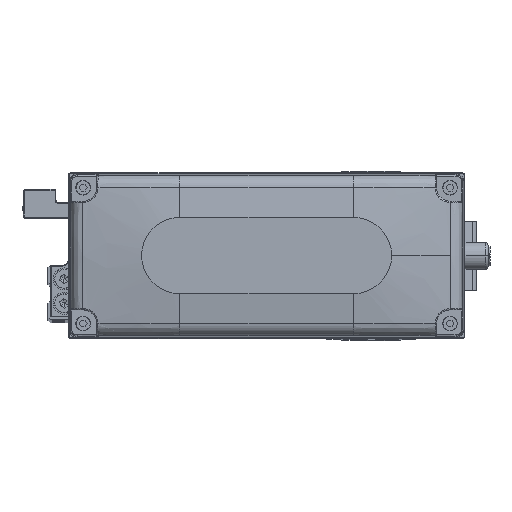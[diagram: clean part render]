
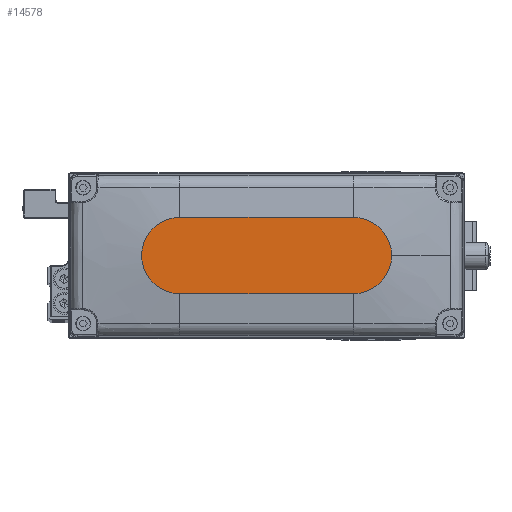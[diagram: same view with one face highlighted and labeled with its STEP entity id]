
A CAD part, top view. The second image highlights one B-rep face of the part: STEP entity #14578.
In plain terms, the highlighted planar face has unit normal (0, 0, 1).
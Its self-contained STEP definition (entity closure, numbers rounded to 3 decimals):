
#229 = AXIS2_PLACEMENT_3D ( 'NONE', #42805, #10837, #25076 ) ;
#555 = EDGE_CURVE ( 'NONE', #37401, #34958, #22100, .T. ) ;
#601 = EDGE_CURVE ( 'NONE', #31095, #5945, #36462, .T. ) ;
#1197 = VERTEX_POINT ( 'NONE', #17654 ) ;
#1969 = AXIS2_PLACEMENT_3D ( 'NONE', #37122, #5146, #19381 ) ;
#2092 = CARTESIAN_POINT ( 'NONE',  ( 32., 0., 35. ) ) ;
#3259 = DIRECTION ( 'NONE',  ( 0., 0., 1. ) ) ;
#5146 = DIRECTION ( 'NONE',  ( 0., 0., 1. ) ) ;
#5945 = VERTEX_POINT ( 'NONE', #33061 ) ;
#6874 = ORIENTED_EDGE ( 'NONE', *, *, #31077, .T. ) ;
#8332 = ORIENTED_EDGE ( 'NONE', *, *, #41170, .T. ) ;
#10837 = DIRECTION ( 'NONE',  ( 0., 0., 1. ) ) ;
#12405 = CARTESIAN_POINT ( 'NONE',  ( -32., 14., 35. ) ) ;
#12777 = EDGE_LOOP ( 'NONE', ( #8332, #42431, #6874, #13248, #17456 ) ) ;
#13248 = ORIENTED_EDGE ( 'NONE', *, *, #601, .T. ) ;
#14192 = LINE ( 'NONE', #28452, #37978 ) ;
#14327 = FACE_OUTER_BOUND ( 'NONE', #12777, .T. ) ;
#14578 = ADVANCED_FACE ( 'NONE', ( #14327 ), #28585, .T. ) ;
#16338 = DIRECTION ( 'NONE',  ( 0., 0., 1. ) ) ;
#16345 = AXIS2_PLACEMENT_3D ( 'NONE', #2092, #16338, #30614 ) ;
#17296 = AXIS2_PLACEMENT_3D ( 'NONE', #35243, #3259, #17488 ) ;
#17456 = ORIENTED_EDGE ( 'NONE', *, *, #44791, .T. ) ;
#17488 = DIRECTION ( 'NONE',  ( 1., 0., 0. ) ) ;
#17654 = CARTESIAN_POINT ( 'NONE',  ( 32., 14., 35. ) ) ;
#18234 = VECTOR ( 'NONE', #26650, 1000. ) ;
#19381 = DIRECTION ( 'NONE',  ( 1., 0., 0. ) ) ;
#22100 = CIRCLE ( 'NONE', #1969, 14. ) ;
#25076 = DIRECTION ( 'NONE',  ( 1., 0., 0. ) ) ;
#25393 = CARTESIAN_POINT ( 'NONE',  ( -32., 14., 35. ) ) ;
#26650 = DIRECTION ( 'NONE',  ( -1., 0., 0. ) ) ;
#28452 = CARTESIAN_POINT ( 'NONE',  ( -32., -14., 35. ) ) ;
#28585 = PLANE ( 'NONE',  #229 ) ;
#28693 = CARTESIAN_POINT ( 'NONE',  ( 32., -14., 35. ) ) ;
#30614 = DIRECTION ( 'NONE',  ( 1., 0., 0. ) ) ;
#31077 = EDGE_CURVE ( 'NONE', #34958, #31095, #14192, .T. ) ;
#31095 = VERTEX_POINT ( 'NONE', #28693 ) ;
#32342 = CARTESIAN_POINT ( 'NONE',  ( -32., -14., 35. ) ) ;
#33061 = CARTESIAN_POINT ( 'NONE',  ( 46., 0., 35. ) ) ;
#34958 = VERTEX_POINT ( 'NONE', #32342 ) ;
#35243 = CARTESIAN_POINT ( 'NONE',  ( 32., 0., 35. ) ) ;
#36462 = CIRCLE ( 'NONE', #16345, 14. ) ;
#37122 = CARTESIAN_POINT ( 'NONE',  ( -32., 0., 35. ) ) ;
#37401 = VERTEX_POINT ( 'NONE', #25393 ) ;
#37434 = CIRCLE ( 'NONE', #17296, 14. ) ;
#37978 = VECTOR ( 'NONE', #42683, 1000. ) ;
#41170 = EDGE_CURVE ( 'NONE', #1197, #37401, #44379, .T. ) ;
#42431 = ORIENTED_EDGE ( 'NONE', *, *, #555, .T. ) ;
#42683 = DIRECTION ( 'NONE',  ( 1., 0., 0. ) ) ;
#42805 = CARTESIAN_POINT ( 'NONE',  ( 0., 0., 35. ) ) ;
#44379 = LINE ( 'NONE', #12405, #18234 ) ;
#44791 = EDGE_CURVE ( 'NONE', #5945, #1197, #37434, .T. ) ;
